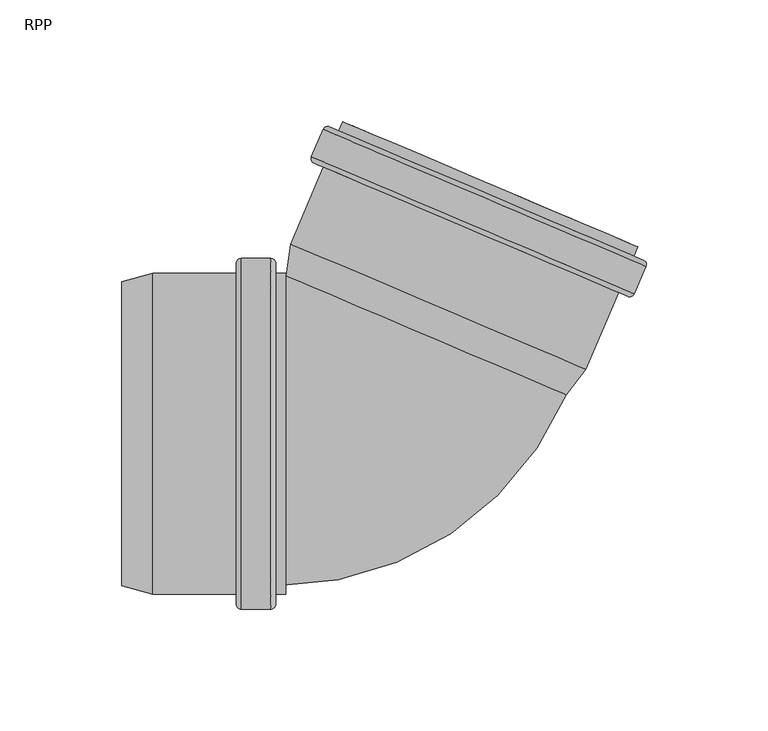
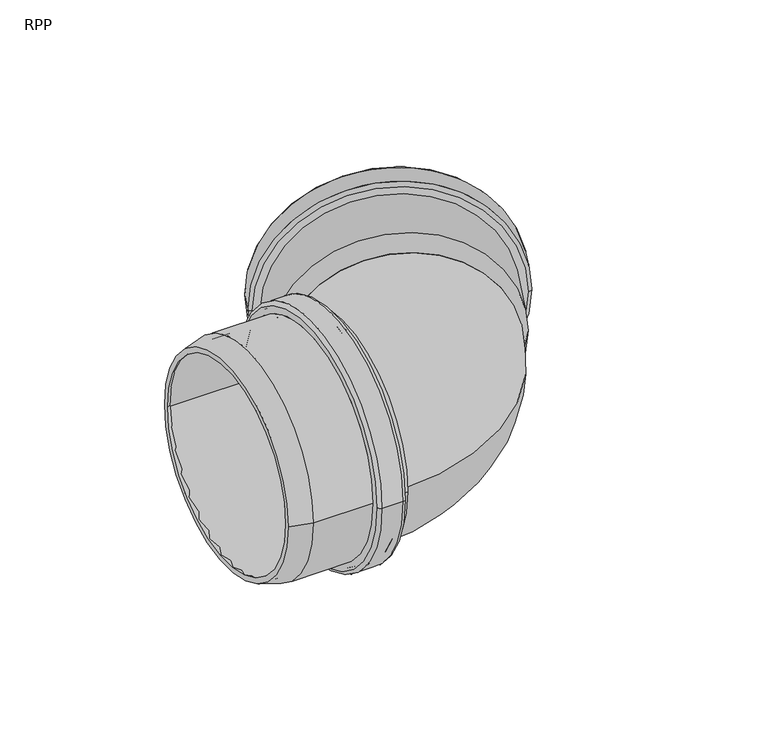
"""IFC4 building model written with IfcOpenShell, lengths in millimetres: pipe fitting geometry, RAUPIANO PLUS Bend : RPP."""

from ifc_helpers import new_model, si_unit, point, frame, origin, place, context, project, spatial, polyline, circle_curve, ellipse_curve, trimmed, source, transform, mapped, element, save
from ifc_brep_helpers import plane_surface, cylinder_surface, revolved_surface, advanced_brep


def rpp_dd20bded(model_context):
    return source(origin(), model_context, "Body", "AdvancedBrep", [
        advanced_brep(
        [(-57.8153898, -62.8, 0.0), (-57.8153898, 62.8, 0.0), (-94.9182943, 62.8, 0.0), (-94.9182943, -62.8, 0.0), (-57.3153898, -69.0, 0.0), (-57.3153898, 69.0, 0.0), (-57.8153898, 68.5, 0.0), (-57.8153898, -68.5, 0.0), (-48.3153898, -69.0, 0.0), (-48.3153898, 69.0, 0.0), (-47.8153898, -68.5, 0.0), (-47.8153898, 68.5, 0.0), (-40.6153898, -62.8, 0.0), (-40.6153898, 62.8, 0.0), (-47.8153898, 62.8, 0.0), (-47.8153898, -62.8, 0.0), (-44.7153898, -65.9, 0.0), (-44.7153898, 65.9, 0.0), (-40.6153898, 65.9, 0.0), (-40.6153898, -65.9, 0.0), (-46.7153898, -72.1, 0.0), (-46.7153898, 72.1, 0.0), (-44.7153898, 70.1, 0.0), (-44.7153898, -70.1, 0.0), (-58.9153898, -72.1, 0.0), (-58.9153898, 72.1, 0.0), (-60.9153898, -70.1, 0.0), (-60.9153898, 70.1, 0.0), (-95.3264171, -65.9, 0.0), (-95.3264171, 65.9, 0.0), (-60.9153898, 65.9, 0.0), (-60.9153898, -65.9, 0.0), (-108.0153898, -62.5, 0.0), (-108.0153898, 62.5, 0.0), (-108.0153898, 59.2906438, 0.0), (-108.0153898, -59.2906438, 0.0)],
        [
            (0, 1, circle_curve(frame((-57.8153898, 0.0, 0.0), z_axis=(1.0, 0.0, 0.0), x_axis=(0.0, 1.0, 0.0)), 62.8)),
            (1, 2),
            (2, 3, circle_curve(frame((-94.9182943, 0.0, 0.0), z_axis=(-1.0, 0.0, 0.0), x_axis=(0.0, 1.0, 0.0)), 62.8)),
            (3, 0),
            (4, 5, circle_curve(frame((-57.3153898, 0.0, 0.0), z_axis=(1.0, 0.0, 0.0), x_axis=(0.0, 1.0, 0.0)), 69.0)),
            (5, 6, circle_curve(frame((-57.3153898, 68.5, 0.0), z_axis=(0.0, 0.0, 1.0), x_axis=(0.0, -1.0, 0.0)), 0.5)),
            (6, 7, circle_curve(frame((-57.8153898, 0.0, 0.0), z_axis=(-1.0, 0.0, 0.0), x_axis=(0.0, 1.0, 0.0)), 68.5)),
            (7, 4, circle_curve(frame((-57.3153898, -68.5, 0.0), z_axis=(0.0, 0.0, 1.0), x_axis=(0.0, 1.0, 0.0)), 0.5)),
            (8, 9, circle_curve(frame((-48.3153898, 0.0, 0.0), z_axis=(1.0, 0.0, 0.0), x_axis=(0.0, 1.0, 0.0)), 69.0)),
            (9, 5),
            (4, 8),
            (10, 11, circle_curve(frame((-47.8153898, 0.0, 0.0), z_axis=(1.0, 0.0, 0.0), x_axis=(0.0, 1.0, 0.0)), 68.5)),
            (11, 9, circle_curve(frame((-48.3153898, 68.5, 0.0), z_axis=(0.0, 0.0, 1.0), x_axis=(0.0, -1.0, 0.0)), 0.5)),
            (8, 10, circle_curve(frame((-48.3153898, -68.5, 0.0), z_axis=(0.0, 0.0, 1.0), x_axis=(0.0, 1.0, 0.0)), 0.5)),
            (12, 13, circle_curve(frame((-40.6153898, 0.0, 0.0), z_axis=(1.0, 0.0, 0.0), x_axis=(0.0, 1.0, 0.0)), 62.8)),
            (13, 14),
            (14, 15, circle_curve(frame((-47.8153898, 0.0, 0.0), z_axis=(-1.0, 0.0, 0.0), x_axis=(0.0, 1.0, 0.0)), 62.8)),
            (15, 12),
            (16, 17, circle_curve(frame((-44.7153898, 0.0, 0.0), z_axis=(1.0, 0.0, 0.0), x_axis=(0.0, 1.0, 0.0)), 65.9)),
            (17, 18),
            (18, 19, circle_curve(frame((-40.6153898, 0.0, 0.0), z_axis=(-1.0, 0.0, 0.0), x_axis=(0.0, 1.0, 0.0)), 65.9)),
            (19, 16),
            (20, 21, circle_curve(frame((-46.7153898, 0.0, 0.0), z_axis=(1.0, 0.0, 0.0), x_axis=(0.0, 1.0, 0.0)), 72.1)),
            (21, 22, circle_curve(frame((-46.7153898, 70.1, 0.0), z_axis=(0.0, 0.0, -1.0), x_axis=(0.0, -1.0, 0.0)), 2.0)),
            (22, 23, circle_curve(frame((-44.7153898, 0.0, 0.0), z_axis=(-1.0, 0.0, 0.0), x_axis=(0.0, 1.0, 0.0)), 70.1)),
            (23, 20, circle_curve(frame((-46.7153898, -70.1, 0.0), z_axis=(0.0, 0.0, -1.0), x_axis=(0.0, 1.0, 0.0)), 2.0)),
            (24, 25, circle_curve(frame((-58.9153898, 0.0, 0.0), z_axis=(1.0, 0.0, 0.0), x_axis=(0.0, 1.0, 0.0)), 72.1)),
            (25, 21),
            (20, 24),
            (26, 27, circle_curve(frame((-60.9153898, 0.0, 0.0), z_axis=(1.0, 0.0, 0.0), x_axis=(0.0, 1.0, 0.0)), 70.1)),
            (27, 25, circle_curve(frame((-58.9153898, 70.1, 0.0), z_axis=(0.0, 0.0, -1.0), x_axis=(0.0, -1.0, 0.0)), 2.0)),
            (24, 26, circle_curve(frame((-58.9153898, -70.1, 0.0), z_axis=(0.0, 0.0, -1.0), x_axis=(0.0, 1.0, 0.0)), 2.0)),
            (28, 29, circle_curve(frame((-95.3264171, 0.0, 0.0), z_axis=(1.0, 0.0, 0.0), x_axis=(0.0, 1.0, 0.0)), 65.9)),
            (29, 30),
            (30, 31, circle_curve(frame((-60.9153898, 0.0, 0.0), z_axis=(-1.0, 0.0, 0.0), x_axis=(0.0, 1.0, 0.0)), 65.9)),
            (31, 28),
            (32, 33, circle_curve(frame((-108.0153898, 0.0, 0.0), z_axis=(1.0, 0.0, 0.0), x_axis=(0.0, 1.0, 0.0)), 62.5)),
            (33, 29),
            (28, 32),
            (2, 34),
            (34, 35, circle_curve(frame((-108.0153898, 0.0, 0.0), z_axis=(-1.0, 0.0, 0.0), x_axis=(0.0, 1.0, 0.0)), 59.2906438)),
            (35, 3),
            (1, 0, circle_curve(frame((-57.8153898, 0.0, 0.0), z_axis=(1.0, 0.0, 0.0), x_axis=(0.0, -1.0, 0.0)), 62.8)),
            (3, 2, circle_curve(frame((-94.9182943, 0.0, 0.0), z_axis=(-1.0, 0.0, 0.0), x_axis=(0.0, -1.0, 0.0)), 62.8)),
            (6, 7, circle_curve(frame((-57.8153898, 0.0, 0.0), z_axis=(1.0, 0.0, 0.0), x_axis=(0.0, -1.0, 0.0)), 68.5)),
            (5, 4, circle_curve(frame((-57.3153898, 0.0, 0.0), z_axis=(1.0, 0.0, 0.0), x_axis=(0.0, -1.0, 0.0)), 69.0)),
            (9, 8, circle_curve(frame((-48.3153898, 0.0, 0.0), z_axis=(1.0, 0.0, 0.0), x_axis=(0.0, -1.0, 0.0)), 69.0)),
            (11, 10, circle_curve(frame((-47.8153898, 0.0, 0.0), z_axis=(1.0, 0.0, 0.0), x_axis=(0.0, -1.0, 0.0)), 68.5)),
            (14, 15, circle_curve(frame((-47.8153898, 0.0, 0.0), z_axis=(1.0, 0.0, 0.0), x_axis=(0.0, -1.0, 0.0)), 62.8)),
            (13, 12, circle_curve(frame((-40.6153898, 0.0, 0.0), z_axis=(1.0, 0.0, 0.0), x_axis=(0.0, -1.0, 0.0)), 62.8)),
            (18, 19, circle_curve(frame((-40.6153898, 0.0, 0.0), z_axis=(1.0, 0.0, 0.0), x_axis=(0.0, -1.0, 0.0)), 65.9)),
            (17, 16, circle_curve(frame((-44.7153898, 0.0, 0.0), z_axis=(1.0, 0.0, 0.0), x_axis=(0.0, -1.0, 0.0)), 65.9)),
            (22, 23, circle_curve(frame((-44.7153898, 0.0, 0.0), z_axis=(1.0, 0.0, 0.0), x_axis=(0.0, -1.0, 0.0)), 70.1)),
            (21, 20, circle_curve(frame((-46.7153898, 0.0, 0.0), z_axis=(1.0, 0.0, 0.0), x_axis=(0.0, -1.0, 0.0)), 72.1)),
            (25, 24, circle_curve(frame((-58.9153898, 0.0, 0.0), z_axis=(1.0, 0.0, 0.0), x_axis=(0.0, -1.0, 0.0)), 72.1)),
            (27, 26, circle_curve(frame((-60.9153898, 0.0, 0.0), z_axis=(1.0, 0.0, 0.0), x_axis=(0.0, -1.0, 0.0)), 70.1)),
            (30, 31, circle_curve(frame((-60.9153898, 0.0, 0.0), z_axis=(1.0, 0.0, 0.0), x_axis=(0.0, -1.0, 0.0)), 65.9)),
            (29, 28, circle_curve(frame((-95.3264171, 0.0, 0.0), z_axis=(1.0, 0.0, 0.0), x_axis=(0.0, -1.0, 0.0)), 65.9)),
            (33, 32, circle_curve(frame((-108.0153898, 0.0, 0.0), z_axis=(1.0, 0.0, 0.0), x_axis=(0.0, -1.0, 0.0)), 62.5)),
            (34, 35, circle_curve(frame((-108.0153898, 0.0, 0.0), z_axis=(1.0, 0.0, 0.0), x_axis=(0.0, -1.0, 0.0)), 59.2906438)),
        ],
        [
            revolved_surface(polyline([(-94.9182943, 62.8, 0.0), (-57.8153898, 62.8, 0.0)]), (-108.0153898, 0.0, 0.0), (-1.0, 0.0, 0.0)),
            revolved_surface(trimmed(ellipse_curve(frame((-57.3153898, 68.5, 0.0), z_axis=(0.0, 0.0, -1.0), x_axis=(0.0, -1.0, 0.0)), 0.5, 0.5), [point((-57.8153898, 68.5, 0.0))], [point((-57.3153898, 69.0, 0.0))], True, "CARTESIAN"), (-108.0153898, 0.0, 0.0), (-1.0, 0.0, 0.0)),
            revolved_surface(polyline([(-57.3153898, 69.0, 0.0), (-48.3153898, 69.0, 0.0)]), (-108.0153898, 0.0, 0.0), (-1.0, 0.0, 0.0)),
            revolved_surface(trimmed(ellipse_curve(frame((-48.3153898, 68.5, 0.0), z_axis=(0.0, 0.0, -1.0), x_axis=(0.0, -1.0, 0.0)), 0.5, 0.5), [point((-48.3153898, 69.0, 0.0))], [point((-47.8153898, 68.5, 0.0))], True, "CARTESIAN"), (-108.0153898, 0.0, 0.0), (-1.0, 0.0, 0.0)),
            revolved_surface(polyline([(-47.8153898, 62.8, 0.0), (-40.6153898, 62.8, 0.0)]), (-108.0153898, 0.0, 0.0), (-1.0, 0.0, 0.0)),
            cylinder_surface(frame((-108.0153898, 0.0, 0.0), z_axis=(-1.0, 0.0, 0.0), x_axis=(0.0, 1.0, 0.0)), 65.9),
            revolved_surface(trimmed(ellipse_curve(frame((-46.7153898, 70.1, 0.0), z_axis=(0.0, 0.0, 1.0), x_axis=(0.0, -1.0, 0.0)), 2.0, 2.0), [point((-44.7153898, 70.1, 0.0))], [point((-46.7153898, 72.1, 0.0))], True, "CARTESIAN"), (-108.0153898, 0.0, 0.0), (-1.0, 0.0, 0.0)),
            cylinder_surface(frame((-108.0153898, 0.0, 0.0), z_axis=(-1.0, 0.0, 0.0), x_axis=(0.0, 1.0, 0.0)), 72.1),
            revolved_surface(trimmed(ellipse_curve(frame((-58.9153898, 70.1, 0.0), z_axis=(0.0, 0.0, 1.0), x_axis=(0.0, -1.0, 0.0)), 2.0, 2.0), [point((-58.9153898, 72.1, 0.0))], [point((-60.9153898, 70.1, 0.0))], True, "CARTESIAN"), (-108.0153898, 0.0, 0.0), (-1.0, 0.0, 0.0)),
            revolved_surface(polyline([(-95.3264171, 65.9, 0.0), (-108.0153898, 62.5, 0.0)]), (-108.0153898, 0.0, 0.0), (-1.0, 0.0, 0.0)),
            revolved_surface(polyline([(-108.0153898, 59.2906438, 0.0), (-94.9182943, 62.8, 0.0)]), (-108.0153898, 0.0, 0.0), (-1.0, 0.0, 0.0)),
            revolved_surface(polyline([(-94.9182943, -62.8, 0.0), (-57.8153898, -62.8, 0.0)]), (-108.0153898, 0.0, 0.0), (-1.0, 0.0, 0.0)),
            plane_surface(frame((-57.8153898, 0.0, 0.0), z_axis=(1.0, 0.0, 0.0), x_axis=(0.0, -1.0, 0.0))),
            revolved_surface(trimmed(ellipse_curve(frame((-57.3153898, -68.5, 0.0), z_axis=(0.0, 0.0, 1.0), x_axis=(0.0, 1.0, 0.0)), 0.5, 0.5), [point((-57.8153898, -68.5, 0.0))], [point((-57.3153898, -69.0, 0.0))], True, "CARTESIAN"), (-108.0153898, 0.0, 0.0), (-1.0, 0.0, 0.0)),
            revolved_surface(polyline([(-57.3153898, -69.0, 0.0), (-48.3153898, -69.0, 0.0)]), (-108.0153898, 0.0, 0.0), (-1.0, 0.0, 0.0)),
            revolved_surface(trimmed(ellipse_curve(frame((-48.3153898, -68.5, 0.0), z_axis=(0.0, 0.0, 1.0), x_axis=(0.0, 1.0, 0.0)), 0.5, 0.5), [point((-48.3153898, -69.0, 0.0))], [point((-47.8153898, -68.5, 0.0))], True, "CARTESIAN"), (-108.0153898, 0.0, 0.0), (-1.0, 0.0, 0.0)),
            plane_surface(frame((-47.8153898, 0.0, 0.0), z_axis=(-1.0, 0.0, 0.0), x_axis=(0.0, -1.0, 0.0))),
            revolved_surface(polyline([(-47.8153898, -62.8, 0.0), (-40.6153898, -62.8, 0.0)]), (-108.0153898, 0.0, 0.0), (-1.0, 0.0, 0.0)),
            plane_surface(frame((-40.6153898, 0.0, 0.0), z_axis=(1.0, 0.0, 0.0), x_axis=(0.0, -1.0, 0.0))),
            cylinder_surface(frame((-108.0153898, 0.0, 0.0), z_axis=(-1.0, 0.0, 0.0), x_axis=(0.0, -1.0, 0.0)), 65.9),
            plane_surface(frame((-44.7153898, 0.0, 0.0), z_axis=(1.0, 0.0, 0.0), x_axis=(0.0, -1.0, 0.0))),
            revolved_surface(trimmed(ellipse_curve(frame((-46.7153898, -70.1, 0.0), z_axis=(0.0, 0.0, -1.0), x_axis=(0.0, 1.0, 0.0)), 2.0, 2.0), [point((-44.7153898, -70.1, 0.0))], [point((-46.7153898, -72.1, 0.0))], True, "CARTESIAN"), (-108.0153898, 0.0, 0.0), (-1.0, 0.0, 0.0)),
            cylinder_surface(frame((-108.0153898, 0.0, 0.0), z_axis=(-1.0, 0.0, 0.0), x_axis=(0.0, -1.0, 0.0)), 72.1),
            revolved_surface(trimmed(ellipse_curve(frame((-58.9153898, -70.1, 0.0), z_axis=(0.0, 0.0, -1.0), x_axis=(0.0, 1.0, 0.0)), 2.0, 2.0), [point((-58.9153898, -72.1, 0.0))], [point((-60.9153898, -70.1, 0.0))], True, "CARTESIAN"), (-108.0153898, 0.0, 0.0), (-1.0, 0.0, 0.0)),
            plane_surface(frame((-60.9153898, 0.0, 0.0), z_axis=(-1.0, 0.0, 0.0), x_axis=(0.0, -1.0, 0.0))),
            revolved_surface(polyline([(-95.3264171, -65.9, 0.0), (-108.0153898, -62.5, 0.0)]), (-108.0153898, 0.0, 0.0), (-1.0, 0.0, 0.0)),
            plane_surface(frame((-108.0153898, 0.0, 0.0), z_axis=(-1.0, 0.0, 0.0), x_axis=(0.0, -1.0, 0.0))),
            revolved_surface(polyline([(-108.0153898, -59.2906438, 0.0), (-94.9182943, -62.8, 0.0)]), (-108.0153898, 0.0, 0.0), (-1.0, 0.0, 0.0)),
        ],
        [
            (0, [[1, 2, 3, 4]]),
            (1, [[5, 6, 7, 8]]),
            (2, [[9, 10, -5, 11]]),
            (3, [[12, 13, -9, 14]]),
            (4, [[15, 16, 17, 18]]),
            (5, [[19, 20, 21, 22]]),
            (6, [[23, 24, 25, 26]]),
            (7, [[27, 28, -23, 29]]),
            (8, [[30, 31, -27, 32]]),
            (5, [[33, 34, 35, 36]]),
            (9, [[37, 38, -33, 39]]),
            (10, [[-3, 40, 41, 42]]),
            (11, [[43, -4, 44, -2]]),
            (12, [[45, -7], [-43, -1]]),
            (13, [[46, -8, -45, -6]]),
            (14, [[47, -11, -46, -10]]),
            (15, [[48, -14, -47, -13]]),
            (16, [[-48, -12], [49, -17]]),
            (17, [[50, -18, -49, -16]]),
            (18, [[51, -21], [-50, -15]]),
            (19, [[52, -22, -51, -20]]),
            (20, [[53, -25], [-52, -19]]),
            (21, [[54, -26, -53, -24]]),
            (22, [[55, -29, -54, -28]]),
            (23, [[56, -32, -55, -31]]),
            (24, [[-56, -30], [57, -35]]),
            (19, [[58, -36, -57, -34]]),
            (25, [[59, -39, -58, -38]]),
            (26, [[-59, -37], [60, -41]]),
            (27, [[-44, -42, -60, -40]]),
        ],
    ),
        advanced_brep(
        [(71.7755084, 17.3496798, 0.0), (-37.3791425, 63.6830801, 0.0), (-35.492079, 77.1102348, 0.0), (80.1233306, 28.034405, 0.0), (82.8174294, 26.4474596, 0.0), (-38.5051103, 77.9458223, 0.0), (-40.3333704, 64.9370755, 0.0), (74.7297363, 16.0956844, 0.0), (96.2628889, 58.1229772, 0.0), (-25.0596508, 109.6213399, 0.0), (107.518401, 68.7716131, 0.0), (-25.2183988, 125.1150418, 0.0), (-29.9853186, 113.8848826, 0.0), (102.7514813, 57.5414539, 0.0), (104.1947308, 76.8092257, 0.0), (-17.1278088, 128.3075884, 0.0), (-18.7298065, 124.5335185, 0.0), (102.5927332, 73.0351558, 0.0), (98.5279017, 71.3928573, 0.0), (-17.0875079, 120.468687, 0.0), (-14.2742438, 127.0963219, 0.0), (101.3411658, 78.0204922, 0.0), (100.523086, 60.2255282, 0.0), (-26.5065837, 114.1464239, 0.0), (-22.9900036, 122.4309676, 0.0), (104.0396662, 68.5100718, 0.0), (-20.9948192, 111.2636385, 0.0), (94.6205904, 62.1878087, 0.0), (-28.9257711, 111.2624107, 0.0), (100.1290093, 56.4819064, 0.0), (106.4588536, 71.3940851, 0.0), (-22.5959269, 126.1745893, 0.0), (-22.3343856, 122.6958544, 0.0), (103.7747793, 69.1656898, 0.0), (99.867468, 59.9606413, 0.0), (-26.2416969, 113.4908059, 0.0)],
        [
            (0, 1, circle_curve(frame((17.1981829, 40.51638, 0.0), z_axis=(-0.39073112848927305, -0.9205048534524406, 0.0), x_axis=(-0.9205048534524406, 0.39073112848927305, 0.0)), 59.2906438)),
            (1, 2),
            (2, 3, circle_curve(frame((22.3156258, 52.5723199, 0.0), z_axis=(0.39073112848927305, 0.9205048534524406, 0.0), x_axis=(-0.9205048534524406, 0.39073112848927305, 0.0)), 62.8)),
            (3, 0),
            (4, 5, circle_curve(frame((22.1561596, 52.196641, 0.0), z_axis=(-0.39073112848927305, -0.9205048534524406, 0.0), x_axis=(-0.9205048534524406, 0.39073112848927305, 0.0)), 65.9)),
            (5, 6),
            (6, 7, circle_curve(frame((17.1981829, 40.51638, 0.0), z_axis=(0.39073112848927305, 0.9205048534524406, 0.0), x_axis=(-0.9205048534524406, 0.39073112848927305, 0.0)), 62.5)),
            (7, 4),
            (8, 9, circle_curve(frame((35.6016191, 83.8721586, 0.0), z_axis=(-0.39073112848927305, -0.9205048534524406, 0.0), x_axis=(-0.9205048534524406, 0.39073112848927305, 0.0)), 65.9)),
            (9, 5),
            (4, 8),
            (10, 11, circle_curve(frame((41.1500011, 96.9433275, 0.0), z_axis=(-0.39073112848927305, -0.9205048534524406, 0.0), x_axis=(-0.9205048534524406, 0.39073112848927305, 0.0)), 72.1)),
            (11, 12),
            (12, 13, circle_curve(frame((36.3830813, 85.7131683, 0.0), z_axis=(0.39073112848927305, 0.9205048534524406, 0.0), x_axis=(-0.9205048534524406, 0.39073112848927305, 0.0)), 72.1)),
            (13, 10),
            (14, 15, circle_curve(frame((43.533461, 102.5584071, 0.0), z_axis=(-0.39073112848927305, -0.9205048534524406, 0.0), x_axis=(-0.9205048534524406, 0.39073112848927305, 0.0)), 65.9)),
            (15, 16),
            (16, 17, circle_curve(frame((41.9314634, 98.7843372, 0.0), z_axis=(0.39073112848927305, 0.9205048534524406, 0.0), x_axis=(-0.9205048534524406, 0.39073112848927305, 0.0)), 65.9)),
            (17, 14),
            (18, 19, circle_curve(frame((40.7201969, 95.9307721, 0.0), z_axis=(-0.39073112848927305, -0.9205048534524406, 0.0), x_axis=(-0.9205048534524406, 0.39073112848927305, 0.0)), 62.8)),
            (19, 20),
            (20, 21, circle_curve(frame((43.533461, 102.5584071, 0.0), z_axis=(0.39073112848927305, 0.9205048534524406, 0.0), x_axis=(-0.9205048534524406, 0.39073112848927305, 0.0)), 62.8)),
            (21, 18),
            (22, 23, circle_curve(frame((37.0082511, 87.185976, 0.0), z_axis=(-0.39073112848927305, -0.9205048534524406, 0.0), x_axis=(-0.9205048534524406, 0.39073112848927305, 0.0)), 69.0)),
            (23, 24),
            (24, 25, circle_curve(frame((40.5248313, 95.4705197, 0.0), z_axis=(0.39073112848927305, 0.9205048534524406, 0.0), x_axis=(-0.9205048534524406, 0.39073112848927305, 0.0)), 69.0)),
            (25, 22),
            (2, 26),
            (26, 27, circle_curve(frame((36.8128856, 86.7257236, 0.0), z_axis=(0.39073112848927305, 0.9205048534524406, 0.0), x_axis=(-0.9205048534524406, 0.39073112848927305, 0.0)), 62.8)),
            (27, 3),
            (1, 0, circle_curve(frame((17.1981829, 40.51638, 0.0), z_axis=(-0.39073112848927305, -0.9205048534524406, 0.0), x_axis=(0.9205048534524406, -0.39073112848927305, 0.0)), 59.2906438)),
            (3, 2, circle_curve(frame((22.3156258, 52.5723199, 0.0), z_axis=(0.39073112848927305, 0.9205048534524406, 0.0), x_axis=(0.9205048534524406, -0.39073112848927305, 0.0)), 62.8)),
            (6, 7, circle_curve(frame((17.1981829, 40.51638, 0.0), z_axis=(-0.39073112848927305, -0.9205048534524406, 0.0), x_axis=(0.9205048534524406, -0.39073112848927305, 0.0)), 62.5)),
            (5, 4, circle_curve(frame((22.1561596, 52.196641, 0.0), z_axis=(-0.39073112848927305, -0.9205048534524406, 0.0), x_axis=(0.9205048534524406, -0.39073112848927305, 0.0)), 65.9)),
            (9, 8, circle_curve(frame((35.6016191, 83.8721586, 0.0), z_axis=(-0.39073112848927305, -0.9205048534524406, 0.0), x_axis=(0.9205048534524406, -0.39073112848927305, 0.0)), 65.9)),
            (28, 29, circle_curve(frame((35.6016191, 83.8721586, 0.0), z_axis=(-0.39073112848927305, -0.9205048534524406, 0.0), x_axis=(0.9205048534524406, -0.39073112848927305, 0.0)), 70.1)),
            (29, 28, circle_curve(frame((35.6016191, 83.8721586, 0.0), z_axis=(-0.39073112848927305, -0.9205048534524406, 0.0), x_axis=(-0.9205048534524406, 0.39073112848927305, 0.0)), 70.1)),
            (11, 10, circle_curve(frame((41.1500011, 96.9433275, 0.0), z_axis=(-0.39073112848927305, -0.9205048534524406, 0.0), x_axis=(0.9205048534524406, -0.39073112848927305, 0.0)), 72.1)),
            (13, 12, circle_curve(frame((36.3830813, 85.7131683, 0.0), z_axis=(0.39073112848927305, 0.9205048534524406, 0.0), x_axis=(0.9205048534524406, -0.39073112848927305, 0.0)), 72.1)),
            (30, 31, circle_curve(frame((41.9314634, 98.7843372, 0.0), z_axis=(0.39073112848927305, 0.9205048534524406, 0.0), x_axis=(0.9205048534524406, -0.39073112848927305, 0.0)), 70.1)),
            (31, 30, circle_curve(frame((41.9314634, 98.7843372, 0.0), z_axis=(0.39073112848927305, 0.9205048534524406, 0.0), x_axis=(-0.9205048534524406, 0.39073112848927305, 0.0)), 70.1)),
            (16, 17, circle_curve(frame((41.9314634, 98.7843372, 0.0), z_axis=(-0.39073112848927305, -0.9205048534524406, 0.0), x_axis=(0.9205048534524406, -0.39073112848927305, 0.0)), 65.9)),
            (15, 14, circle_curve(frame((43.533461, 102.5584071, 0.0), z_axis=(-0.39073112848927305, -0.9205048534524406, 0.0), x_axis=(0.9205048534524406, -0.39073112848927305, 0.0)), 65.9)),
            (20, 21, circle_curve(frame((43.533461, 102.5584071, 0.0), z_axis=(-0.39073112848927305, -0.9205048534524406, 0.0), x_axis=(0.9205048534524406, -0.39073112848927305, 0.0)), 62.8)),
            (19, 18, circle_curve(frame((40.7201969, 95.9307721, 0.0), z_axis=(-0.39073112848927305, -0.9205048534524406, 0.0), x_axis=(0.9205048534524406, -0.39073112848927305, 0.0)), 62.8)),
            (32, 33, circle_curve(frame((40.7201969, 95.9307721, 0.0), z_axis=(-0.39073112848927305, -0.9205048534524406, 0.0), x_axis=(0.9205048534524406, -0.39073112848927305, 0.0)), 68.5)),
            (33, 32, circle_curve(frame((40.7201969, 95.9307721, 0.0), z_axis=(-0.39073112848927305, -0.9205048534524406, 0.0), x_axis=(-0.9205048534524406, 0.39073112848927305, 0.0)), 68.5)),
            (23, 22, circle_curve(frame((37.0082511, 87.185976, 0.0), z_axis=(-0.39073112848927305, -0.9205048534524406, 0.0), x_axis=(0.9205048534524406, -0.39073112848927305, 0.0)), 69.0)),
            (25, 24, circle_curve(frame((40.5248313, 95.4705197, 0.0), z_axis=(0.39073112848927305, 0.9205048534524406, 0.0), x_axis=(0.9205048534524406, -0.39073112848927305, 0.0)), 69.0)),
            (34, 35, circle_curve(frame((36.8128856, 86.7257236, 0.0), z_axis=(0.39073112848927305, 0.9205048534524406, 0.0), x_axis=(0.9205048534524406, -0.39073112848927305, 0.0)), 68.5)),
            (35, 34, circle_curve(frame((36.8128856, 86.7257236, 0.0), z_axis=(0.39073112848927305, 0.9205048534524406, 0.0), x_axis=(-0.9205048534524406, 0.39073112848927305, 0.0)), 68.5)),
            (26, 27, circle_curve(frame((36.8128856, 86.7257236, 0.0), z_axis=(-0.39073112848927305, -0.9205048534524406, 0.0), x_axis=(0.9205048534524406, -0.39073112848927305, 0.0)), 62.8)),
            (12, 28, circle_curve(frame((-28.1443089, 113.1034204, 0.0), z_axis=(0.0, 0.0, 1.0), x_axis=(0.9205048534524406, -0.39073112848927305, 0.0)), 2.0)),
            (29, 13, circle_curve(frame((100.9104716, 58.3229162, 0.0), z_axis=(0.0, 0.0, 1.0), x_axis=(-0.9205048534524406, 0.39073112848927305, 0.0)), 2.0)),
            (31, 11, circle_curve(frame((-23.3773891, 124.3335796, 0.0), z_axis=(0.0, 0.0, 1.0), x_axis=(0.9205048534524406, -0.39073112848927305, 0.0)), 2.0)),
            (10, 30, circle_curve(frame((105.6773913, 69.5530754, 0.0), z_axis=(0.0, 0.0, 1.0), x_axis=(-0.9205048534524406, 0.39073112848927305, 0.0)), 2.0)),
            (24, 32, circle_curve(frame((-22.5297512, 122.235602, 0.0), z_axis=(0.0, 0.0, -1.0), x_axis=(0.9205048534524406, -0.39073112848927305, 0.0)), 0.5)),
            (33, 25, circle_curve(frame((103.5794138, 68.7054374, 0.0), z_axis=(0.0, 0.0, -1.0), x_axis=(-0.9205048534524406, 0.39073112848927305, 0.0)), 0.5)),
            (35, 23, circle_curve(frame((-26.0463313, 113.9510583, 0.0), z_axis=(0.0, 0.0, -1.0), x_axis=(0.9205048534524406, -0.39073112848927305, 0.0)), 0.5)),
            (22, 34, circle_curve(frame((100.0628336, 60.4208937, 0.0), z_axis=(0.0, 0.0, -1.0), x_axis=(-0.9205048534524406, 0.39073112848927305, 0.0)), 0.5)),
        ],
        [
            revolved_surface(polyline([(-35.492079, 77.1102348, 0.0), (-37.3791425, 63.6830801, 0.0)]), (17.1981829, 40.51638, 0.0), (0.39073112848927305, 0.9205048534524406, 0.0)),
            revolved_surface(polyline([(-40.3333704, 64.9370755, 0.0), (-38.5051103, 77.9458223, 0.0)]), (17.1981829, 40.51638, 0.0), (0.39073112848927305, 0.9205048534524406, 0.0)),
            cylinder_surface(frame((17.1981829, 40.51638, 0.0), z_axis=(0.39073112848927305, 0.9205048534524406, 0.0), x_axis=(-0.9205048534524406, 0.39073112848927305, 0.0)), 65.9),
            cylinder_surface(frame((17.1981829, 40.51638, 0.0), z_axis=(0.39073112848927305, 0.9205048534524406, 0.0), x_axis=(-0.9205048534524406, 0.39073112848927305, 0.0)), 72.1),
            revolved_surface(polyline([(-14.274243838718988, 127.09632198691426, 0.0), (-17.087507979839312, 120.4686870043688, 0.0)]), (17.1981829, 40.51638, 0.0), (0.39073112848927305, 0.9205048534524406, 0.0)),
            revolved_surface(polyline([(-22.990003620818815, 122.43096760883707, 0.0), (-26.506583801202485, 114.14642387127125, 0.0)]), (17.1981829, 40.51638, 0.0), (0.39073112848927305, 0.9205048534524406, 0.0)),
            revolved_surface(polyline([(-20.99481924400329, 111.26363851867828, 0.0), (-35.49207903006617, 77.1102347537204, 0.0)]), (17.1981829, 40.51638, 0.0), (0.39073112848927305, 0.9205048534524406, 0.0)),
            revolved_surface(polyline([(80.1233306, 28.034405, 0.0), (71.7755084, 17.3496798, 0.0)]), (17.1981829, 40.51638, 0.0), (0.39073112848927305, 0.9205048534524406, 0.0)),
            plane_surface(frame((17.1981829, 40.51638, 0.0), z_axis=(-0.39073112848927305, -0.9205048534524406, 0.0), x_axis=(0.9205048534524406, -0.39073112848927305, 0.0))),
            revolved_surface(polyline([(74.7297363, 16.0956844, 0.0), (82.8174294, 26.4474596, 0.0)]), (17.1981829, 40.51638, 0.0), (0.39073112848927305, 0.9205048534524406, 0.0)),
            cylinder_surface(frame((17.1981829, 40.51638, 0.0), z_axis=(0.39073112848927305, 0.9205048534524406, 0.0), x_axis=(0.9205048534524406, -0.39073112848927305, 0.0)), 65.9),
            plane_surface(frame((35.6016191, 83.8721586, 0.0), z_axis=(-0.39073112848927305, -0.9205048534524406, 0.0), x_axis=(0.9205048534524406, -0.39073112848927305, 0.0))),
            cylinder_surface(frame((17.1981829, 40.51638, 0.0), z_axis=(0.39073112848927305, 0.9205048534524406, 0.0), x_axis=(0.9205048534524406, -0.39073112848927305, 0.0)), 72.1),
            plane_surface(frame((41.9314634, 98.7843372, 0.0), z_axis=(0.39073112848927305, 0.9205048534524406, 0.0), x_axis=(0.9205048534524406, -0.39073112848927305, 0.0))),
            plane_surface(frame((43.533461, 102.5584071, 0.0), z_axis=(0.39073112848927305, 0.9205048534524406, 0.0), x_axis=(0.9205048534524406, -0.39073112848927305, 0.0))),
            revolved_surface(polyline([(101.34116575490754, 78.02049224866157, 0.0), (98.52790161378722, 71.39285726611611, 0.0)]), (17.1981829, 40.51638, 0.0), (0.39073112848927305, 0.9205048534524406, 0.0)),
            plane_surface(frame((40.7201969, 95.9307721, 0.0), z_axis=(-0.39073112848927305, -0.9205048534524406, 0.0), x_axis=(0.9205048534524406, -0.39073112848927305, 0.0))),
            revolved_surface(polyline([(104.03966615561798, 68.51007187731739, 0.0), (100.52308597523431, 60.225528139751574, 0.0)]), (17.1981829, 40.51638, 0.0), (0.39073112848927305, 0.9205048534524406, 0.0)),
            plane_surface(frame((36.8128856, 86.7257236, 0.0), z_axis=(0.39073112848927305, 0.9205048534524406, 0.0), x_axis=(0.9205048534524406, -0.39073112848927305, 0.0))),
            revolved_surface(polyline([(94.62059034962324, 62.187808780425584, 0.0), (80.12333056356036, 28.03440501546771, 0.0)]), (17.1981829, 40.51638, 0.0), (0.39073112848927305, 0.9205048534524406, 0.0)),
            revolved_surface(trimmed(ellipse_curve(frame((-28.1443089, 113.1034204, 0.0), z_axis=(0.0, 0.0, -1.0), x_axis=(0.9205048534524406, -0.39073112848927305, 0.0)), 2.0, 2.0), [point((-28.9257711, 111.2624107, 0.0))], [point((-29.9853186, 113.8848826, 0.0))], True, "CARTESIAN"), (17.1981829, 40.51638, 0.0), (0.39073112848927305, 0.9205048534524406, 0.0)),
            revolved_surface(trimmed(ellipse_curve(frame((-23.3773891, 124.3335796, 0.0), z_axis=(0.0, 0.0, -1.0), x_axis=(0.9205048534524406, -0.39073112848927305, 0.0)), 2.0, 2.0), [point((-25.2183988, 125.1150418, 0.0))], [point((-22.5959269, 126.1745893, 0.0))], True, "CARTESIAN"), (17.1981829, 40.51638, 0.0), (0.39073112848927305, 0.9205048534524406, 0.0)),
            revolved_surface(trimmed(ellipse_curve(frame((-22.5297512, 122.235602, 0.0), z_axis=(0.0, 0.0, 1.0), x_axis=(0.9205048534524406, -0.39073112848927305, 0.0)), 0.5, 0.5), [point((-22.3343856, 122.6958544, 0.0))], [point((-22.9900036, 122.4309676, 0.0))], True, "CARTESIAN"), (17.1981829, 40.51638, 0.0), (0.39073112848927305, 0.9205048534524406, 0.0)),
            revolved_surface(trimmed(ellipse_curve(frame((-26.0463313, 113.9510583, 0.0), z_axis=(0.0, 0.0, 1.0), x_axis=(0.9205048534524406, -0.39073112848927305, 0.0)), 0.5, 0.5), [point((-26.5065837, 114.1464239, 0.0))], [point((-26.2416969, 113.4908059, 0.0))], True, "CARTESIAN"), (17.1981829, 40.51638, 0.0), (0.39073112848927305, 0.9205048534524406, 0.0)),
            revolved_surface(trimmed(ellipse_curve(frame((100.9104716, 58.3229162, 0.0), z_axis=(0.0, 0.0, 1.0), x_axis=(-0.9205048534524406, 0.39073112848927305, 0.0)), 2.0, 2.0), [point((100.1290093, 56.4819064, 0.0))], [point((102.7514813, 57.5414539, 0.0))], True, "CARTESIAN"), (17.1981829, 40.51638, 0.0), (0.39073112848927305, 0.9205048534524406, 0.0)),
            revolved_surface(trimmed(ellipse_curve(frame((105.6773913, 69.5530754, 0.0), z_axis=(0.0, 0.0, 1.0), x_axis=(-0.9205048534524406, 0.39073112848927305, 0.0)), 2.0, 2.0), [point((107.518401, 68.7716131, 0.0))], [point((106.4588536, 71.3940851, 0.0))], True, "CARTESIAN"), (17.1981829, 40.51638, 0.0), (0.39073112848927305, 0.9205048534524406, 0.0)),
            revolved_surface(trimmed(ellipse_curve(frame((103.5794138, 68.7054374, 0.0), z_axis=(0.0, 0.0, -1.0), x_axis=(-0.9205048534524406, 0.39073112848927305, 0.0)), 0.5, 0.5), [point((103.7747793, 69.1656898, 0.0))], [point((104.0396662, 68.5100718, 0.0))], True, "CARTESIAN"), (17.1981829, 40.51638, 0.0), (0.39073112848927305, 0.9205048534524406, 0.0)),
            revolved_surface(trimmed(ellipse_curve(frame((100.0628336, 60.4208937, 0.0), z_axis=(0.0, 0.0, -1.0), x_axis=(-0.9205048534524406, 0.39073112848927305, 0.0)), 0.5, 0.5), [point((100.523086, 60.2255282, 0.0))], [point((99.867468, 59.9606413, 0.0))], True, "CARTESIAN"), (17.1981829, 40.51638, 0.0), (0.39073112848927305, 0.9205048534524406, 0.0)),
        ],
        [
            (0, [[1, 2, 3, 4]]),
            (1, [[5, 6, 7, 8]]),
            (2, [[9, 10, -5, 11]]),
            (3, [[12, 13, 14, 15]]),
            (2, [[16, 17, 18, 19]]),
            (4, [[20, 21, 22, 23]]),
            (5, [[24, 25, 26, 27]]),
            (6, [[-3, 28, 29, 30]]),
            (7, [[31, -4, 32, -2]]),
            (8, [[33, -7], [-31, -1]]),
            (9, [[34, -8, -33, -6]]),
            (10, [[35, -11, -34, -10]]),
            (11, [[36, 37], [-35, -9]]),
            (12, [[38, -15, 39, -13]]),
            (13, [[40, 41], [42, -18]]),
            (10, [[43, -19, -42, -17]]),
            (14, [[-43, -16], [44, -22]]),
            (15, [[45, -23, -44, -21]]),
            (16, [[46, 47], [-45, -20]]),
            (17, [[48, -27, 49, -25]]),
            (18, [[50, 51], [52, -29]]),
            (19, [[-32, -30, -52, -28]]),
            (20, [[-14, 53, -37, 54]]),
            (21, [[-41, 55, -12, 56]]),
            (22, [[-26, 57, -47, 58]]),
            (23, [[-51, 59, -24, 60]]),
            (24, [[-39, -54, -36, -53]]),
            (25, [[-40, -56, -38, -55]]),
            (26, [[-49, -58, -46, -57]]),
            (27, [[-50, -60, -48, -59]]),
        ],
    ),
        advanced_brep(
        [(-44.0153898, 59.4, 0.0), (-44.0153898, -59.4, 0.0), (-108.0153898, -59.4, 0.0), (-108.0153898, 59.4, 0.0), (-99.431673, 62.5, 0.0), (-99.431673, -62.5, 0.0), (-44.0153898, -62.5, 0.0), (-44.0153898, 62.5, 0.0), (-108.0153898, 60.2, 0.0), (-108.0153898, -60.2, 0.0)],
        [
            (0, 1, circle_curve(frame((-44.0153898, 0.0, 0.0), z_axis=(1.0, 0.0, 0.0), x_axis=(0.0, -1.0, 0.0)), 59.4)),
            (1, 2),
            (2, 3, circle_curve(frame((-108.0153898, 0.0, 0.0), z_axis=(-1.0, 0.0, 0.0), x_axis=(0.0, -1.0, 0.0)), 59.4)),
            (3, 0),
            (4, 5, circle_curve(frame((-99.431673, 0.0, 0.0), z_axis=(1.0, 0.0, 0.0), x_axis=(0.0, -1.0, 0.0)), 62.5)),
            (5, 6),
            (6, 7, circle_curve(frame((-44.0153898, 0.0, 0.0), z_axis=(-1.0, 0.0, 0.0), x_axis=(0.0, -1.0, 0.0)), 62.5)),
            (7, 4),
            (8, 9, circle_curve(frame((-108.0153898, 0.0, 0.0), z_axis=(1.0, 0.0, 0.0), x_axis=(0.0, -1.0, 0.0)), 60.2)),
            (9, 5),
            (4, 8),
            (1, 0, circle_curve(frame((-44.0153898, 0.0, 0.0), z_axis=(1.0, 0.0, 0.0), x_axis=(0.0, 1.0, 0.0)), 59.4)),
            (3, 2, circle_curve(frame((-108.0153898, 0.0, 0.0), z_axis=(-1.0, 0.0, 0.0), x_axis=(0.0, 1.0, 0.0)), 59.4)),
            (6, 7, circle_curve(frame((-44.0153898, 0.0, 0.0), z_axis=(1.0, 0.0, 0.0), x_axis=(0.0, 1.0, 0.0)), 62.5)),
            (5, 4, circle_curve(frame((-99.431673, 0.0, 0.0), z_axis=(1.0, 0.0, 0.0), x_axis=(0.0, 1.0, 0.0)), 62.5)),
            (9, 8, circle_curve(frame((-108.0153898, 0.0, 0.0), z_axis=(1.0, 0.0, 0.0), x_axis=(0.0, 1.0, 0.0)), 60.2)),
        ],
        [
            revolved_surface(polyline([(-108.0153898, -59.4, 0.0), (-44.0153898, -59.4, 0.0)]), (-44.0153898, 0.0, 0.0), (-1.0, 0.0, 0.0)),
            cylinder_surface(frame((-44.0153898, 0.0, 0.0), z_axis=(-1.0, 0.0, 0.0), x_axis=(0.0, -1.0, 0.0)), 62.5),
            revolved_surface(polyline([(-99.431673, -62.5, 0.0), (-108.0153898, -60.2, 0.0)]), (-44.0153898, 0.0, 0.0), (-1.0, 0.0, 0.0)),
            revolved_surface(polyline([(-108.0153898, 59.4, 0.0), (-44.0153898, 59.4, 0.0)]), (-44.0153898, 0.0, 0.0), (-1.0, 0.0, 0.0)),
            plane_surface(frame((-44.0153898, 0.0, 0.0), z_axis=(1.0, 0.0, 0.0), x_axis=(0.0, 1.0, 0.0))),
            cylinder_surface(frame((-44.0153898, 0.0, 0.0), z_axis=(-1.0, 0.0, 0.0), x_axis=(0.0, 1.0, 0.0)), 62.5),
            revolved_surface(polyline([(-99.431673, 62.5, 0.0), (-108.0153898, 60.2, 0.0)]), (-44.0153898, 0.0, 0.0), (-1.0, 0.0, 0.0)),
            plane_surface(frame((-108.0153898, 0.0, 0.0), z_axis=(-1.0, 0.0, 0.0), x_axis=(0.0, 1.0, 0.0))),
        ],
        [
            (0, [[1, 2, 3, 4]]),
            (1, [[5, 6, 7, 8]]),
            (2, [[9, 10, -5, 11]]),
            (3, [[12, -4, 13, -2]]),
            (4, [[14, -7], [-12, -1]]),
            (5, [[15, -8, -14, -6]]),
            (6, [[16, -11, -15, -10]]),
            (7, [[-16, -9], [-13, -3]]),
        ],
    ),
        advanced_brep(
        [(-44.0153898, -62.5, 0.0), (-44.0153898, 62.5, 0.0), (-44.0153898, -59.4, 0.0), (-44.0153898, 59.4, 0.0), (74.7297363, 16.0956844, 0.0), (-40.3333704, 64.9370755, 0.0), (71.8761712, 17.3069509, 0.0), (-37.4798054, 63.725809, 0.0)],
        [
            (0, 1, circle_curve(frame((-44.0153898, 0.0, 0.0), z_axis=(-1.0, 0.0, 0.0), x_axis=(0.0, 1.0, 0.0)), 62.5)),
            (1, 0, circle_curve(frame((-44.0153898, 0.0, 0.0), z_axis=(-1.0, 0.0, 0.0), x_axis=(0.0, 1.0, 0.0)), 62.5)),
            (2, 3, circle_curve(frame((-44.0153898, 0.0, 0.0), z_axis=(1.0, 0.0, 0.0), x_axis=(0.0, 1.0, 0.0)), 59.4)),
            (3, 2, circle_curve(frame((-44.0153898, 0.0, 0.0), z_axis=(1.0, 0.0, 0.0), x_axis=(0.0, 1.0, 0.0)), 59.4)),
            (4, 5, circle_curve(frame((17.1981829, 40.51638, 0.0), z_axis=(0.39073112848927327, 0.9205048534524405, 0.0), x_axis=(-0.9205048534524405, 0.39073112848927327, 0.0)), 62.5)),
            (5, 4, circle_curve(frame((17.1981829, 40.51638, 0.0), z_axis=(0.39073112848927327, 0.9205048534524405, 0.0), x_axis=(-0.9205048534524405, 0.39073112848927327, 0.0)), 62.5)),
            (6, 7, circle_curve(frame((17.1981829, 40.51638, 0.0), z_axis=(-0.39073112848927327, -0.9205048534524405, 0.0), x_axis=(-0.9205048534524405, 0.39073112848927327, 0.0)), 59.4)),
            (7, 6, circle_curve(frame((17.1981829, 40.51638, 0.0), z_axis=(-0.39073112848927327, -0.9205048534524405, 0.0), x_axis=(-0.9205048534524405, 0.39073112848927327, 0.0)), 59.4)),
            (7, 3, circle_curve(frame((-44.0153898, 66.5, 0.0), z_axis=(0.0, 0.0, -1.0), x_axis=(0.0, -1.0, 0.0)), 7.1)),
            (2, 6, circle_curve(frame((-44.0153898, 66.5, 0.0), z_axis=(0.0, 0.0, 1.0), x_axis=(0.0, -1.0, 0.0)), 125.9)),
            (5, 1, circle_curve(frame((-44.0153898, 66.5, 0.0), z_axis=(0.0, 0.0, -1.0), x_axis=(0.0, -1.0, 0.0)), 4.0)),
            (0, 4, circle_curve(frame((-44.0153898, 66.5, 0.0), z_axis=(0.0, 0.0, 1.0), x_axis=(0.0, -1.0, 0.0)), 129.0)),
        ],
        [
            plane_surface(frame((-44.0153898, 0.0, 0.0), z_axis=(-1.0, 0.0, 0.0), x_axis=(0.0, 0.0, 1.0))),
            plane_surface(frame((17.1981829, 40.51638, 0.0), z_axis=(0.3907311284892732, 0.9205048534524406, 0.0), x_axis=(0.0, 0.0, 1.0))),
            revolved_surface(trimmed(ellipse_curve(frame((-44.0153898, 0.0, 0.0), z_axis=(1.0, 0.0, 0.0), x_axis=(0.0, 1.0, 0.0)), 59.4, 59.4), [point((-44.0153898, -59.4, 0.0))], [point((-44.0153898, 59.4, 0.0))], True, "CARTESIAN"), (-44.0153898, 66.5, 0.0), (0.0, 0.0, 1.0)),
            revolved_surface(trimmed(ellipse_curve(frame((-44.0153898, 0.0, 0.0), z_axis=(1.0, 0.0, 0.0), x_axis=(0.0, 1.0, 0.0)), 59.4, 59.4), [point((-44.0153898, 59.4, 0.0))], [point((-44.0153898, -59.4, 0.0))], True, "CARTESIAN"), (-44.0153898, 66.5, 0.0), (0.0, 0.0, 1.0)),
            revolved_surface(trimmed(ellipse_curve(frame((-44.0153898, 0.0, 0.0), z_axis=(-1.0, 0.0, 0.0), x_axis=(0.0, 1.0, 0.0)), 62.5, 62.5), [point((-44.0153898, -62.5, 0.0))], [point((-44.0153898, 62.5, 0.0))], True, "CARTESIAN"), (-44.0153898, 66.5, 0.0), (0.0, 0.0, 1.0)),
            revolved_surface(trimmed(ellipse_curve(frame((-44.0153898, 0.0, 0.0), z_axis=(-1.0, 0.0, 0.0), x_axis=(0.0, 1.0, 0.0)), 62.5, 62.5), [point((-44.0153898, 62.5, 0.0))], [point((-44.0153898, -62.5, 0.0))], True, "CARTESIAN"), (-44.0153898, 66.5, 0.0), (0.0, 0.0, 1.0)),
        ],
        [
            (0, [[1, 2], [3, 4]]),
            (1, [[5, 6], [7, 8]]),
            (2, [[9, -3, 10, -8]]),
            (3, [[-10, -4, -9, -7]]),
            (4, [[11, -1, 12, -6]]),
            (5, [[-12, -2, -11, -5]]),
        ],
    ),
    ])


if __name__ == "__main__":
    model = new_model("IFC4")
    model_context = context("Model", 3, world=origin())
    ifc_project = project(units=[si_unit("LENGTHUNIT", "METRE", prefix="MILLI")], contexts=[model_context])
    site = spatial("IfcSite", under=ifc_project)
    building = spatial("IfcBuilding", under=site)
    placement = place(None, origin())
    rpp_shape = rpp_dd20bded(model_context)
    element("IfcPipeFitting", 1, ObjectType="RAUPIANO PLUS Bend : RPP", at=placement, inside=building, context=model_context, shape_type="MappedRepresentation", body=[
        mapped(rpp_shape, transform((0.0, 0.0, 0.0), x_axis=(1.0, 0.0, 0.0), y_axis=(0.0, 1.0, 0.0), z_axis=(0.0, 0.0, 1.0))),
    ])
    save(model, "model.ifc")
